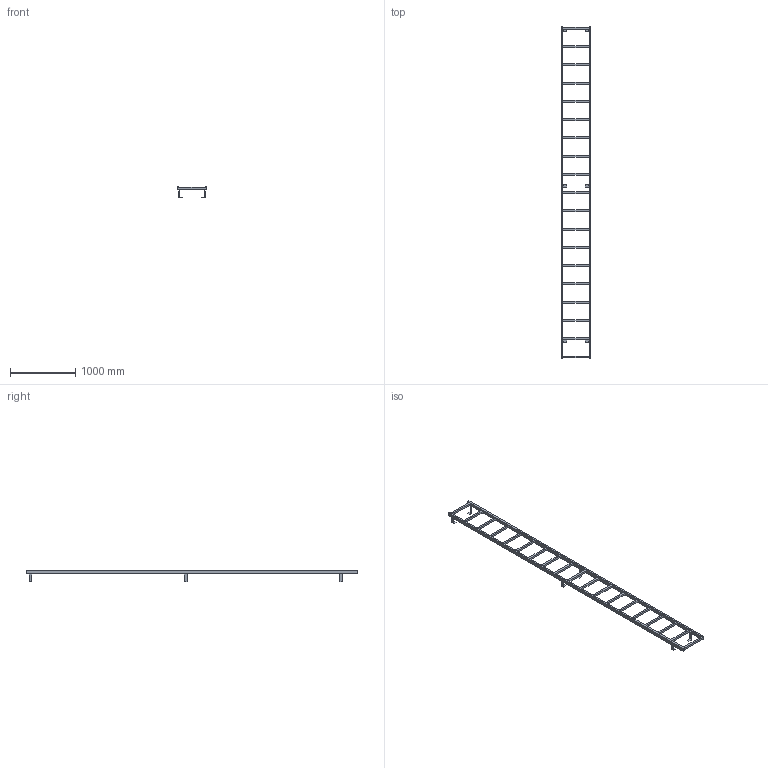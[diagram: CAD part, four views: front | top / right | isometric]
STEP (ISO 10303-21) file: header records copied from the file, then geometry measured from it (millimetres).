
FILE_DESCRIPTION((''),'2;1');
FILE_NAME('017_000109','2017-06-19T',('set'),('HUBER SE'),'PRO/ENGINEER BY PARAMETRIC TECHNOLOGY CORPORATION, 2015280','PRO/ENGINEER BY PARAMETRIC TECHNOLOGY CORPORATION, 2015280','');
FILE_SCHEMA(('CONFIG_CONTROL_DESIGN'));
Length unit declared in the file: millimetre
Products named in the file (1): 017_000109
Bounding box: 450 x 5090 x 178.5 mm (x, y, z)
Volume: 21443940 mm3; surface area: 2642372 mm2
Topology: 1 solids, 1 shells, 134 faces, 493 edges, 357 vertices
Faces by surface type: plane 134
Entity records: 5138 total; most frequent: CARTESIAN_POINT 1044, ORIENTED_EDGE 784, DIRECTION 754, VECTOR 446, LINE 446, EDGE_CURVE 392, VERTEX_POINT 256, EDGE_LOOP 166
